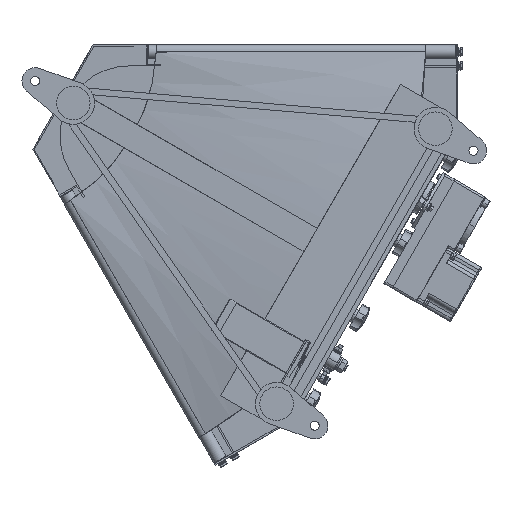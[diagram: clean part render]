
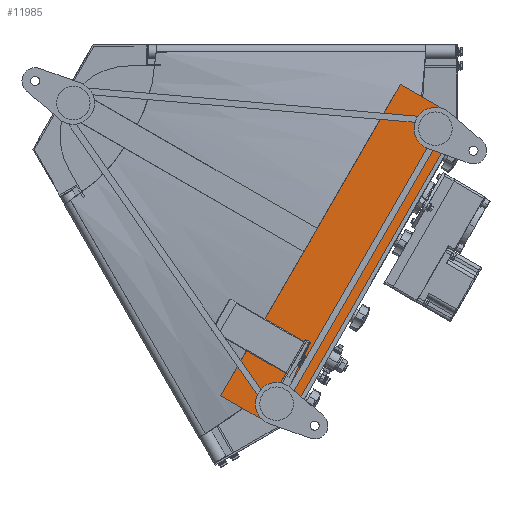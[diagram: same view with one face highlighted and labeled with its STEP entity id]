
A CAD part, front view. The second image highlights one B-rep face of the part: STEP entity #11985.
In plain terms, the highlighted planar face has unit normal (0, -1, 0).
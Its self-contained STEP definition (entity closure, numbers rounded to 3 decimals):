
#628 = CARTESIAN_POINT ( 'NONE',  ( 95.687, -167.5, -55.245 ) ) ;
#3489 = CARTESIAN_POINT ( 'NONE',  ( 612.849, -167.5, -56.493 ) ) ;
#3564 = VECTOR ( 'NONE', #3929, 1000. ) ;
#3929 = DIRECTION ( 'NONE',  ( 0.259, 0., -0.966 ) ) ;
#4014 = DIRECTION ( 'NONE',  ( 0.5, 0., 0.866 ) ) ;
#4125 = VERTEX_POINT ( 'NONE', #43088 ) ;
#4242 = EDGE_CURVE ( 'NONE', #24552, #43173, #15252, .T. ) ;
#5218 = VECTOR ( 'NONE', #4014, 1000. ) ;
#5667 = CARTESIAN_POINT ( 'NONE',  ( 355.349, -167.5, -502.496 ) ) ;
#6793 = EDGE_CURVE ( 'NONE', #17023, #4125, #33706, .T. ) ;
#7577 = DIRECTION ( 'NONE',  ( 0.866, 0., -0.5 ) ) ;
#9101 = PLANE ( 'NONE',  #28272 ) ;
#11061 = FACE_OUTER_BOUND ( 'NONE', #49304, .T. ) ;
#11443 = VECTOR ( 'NONE', #42055, 1000. ) ;
#11832 = CARTESIAN_POINT ( 'NONE',  ( 355.349, -167.5, -502.496 ) ) ;
#11895 = CARTESIAN_POINT ( 'NONE',  ( 684.452, -167.5, -132.474 ) ) ;
#11985 = ADVANCED_FACE ( 'NONE', ( #11061 ), #9101, .F. ) ;
#13736 = CARTESIAN_POINT ( 'NONE',  ( 415.971, -167.5, -537.496 ) ) ;
#14050 = EDGE_CURVE ( 'NONE', #43173, #21114, #25152, .T. ) ;
#14201 = EDGE_CURVE ( 'NONE', #24551, #17023, #42489, .T. ) ;
#15252 = LINE ( 'NONE', #39941, #30205 ) ;
#15818 = DIRECTION ( 'NONE',  ( -0.866, 0., 0.5 ) ) ;
#17023 = VERTEX_POINT ( 'NONE', #3489 ) ;
#17483 = ORIENTED_EDGE ( 'NONE', *, *, #14050, .F. ) ;
#20936 = DIRECTION ( 'NONE',  ( 0.208, 0., 0.978 ) ) ;
#21114 = VERTEX_POINT ( 'NONE', #50411 ) ;
#21594 = LINE ( 'NONE', #11895, #3564 ) ;
#23292 = CARTESIAN_POINT ( 'NONE',  ( 355.349, -167.5, -502.496 ) ) ;
#24169 = DIRECTION ( 'NONE',  ( -0.5, 0., -0.866 ) ) ;
#24551 = VERTEX_POINT ( 'NONE', #5667 ) ;
#24552 = VERTEX_POINT ( 'NONE', #49375 ) ;
#25152 = LINE ( 'NONE', #13736, #11443 ) ;
#28272 = AXIS2_PLACEMENT_3D ( 'NONE', #628, #40523, #20936 ) ;
#28660 = ORIENTED_EDGE ( 'NONE', *, *, #4242, .F. ) ;
#28692 = VECTOR ( 'NONE', #15818, 1000. ) ;
#30205 = VECTOR ( 'NONE', #24169, 1000. ) ;
#33706 = LINE ( 'NONE', #34714, #43003 ) ;
#34714 = CARTESIAN_POINT ( 'NONE',  ( 612.849, -167.5, -56.493 ) ) ;
#35659 = ORIENTED_EDGE ( 'NONE', *, *, #6793, .F. ) ;
#39941 = CARTESIAN_POINT ( 'NONE',  ( 456.952, -167.5, -526.515 ) ) ;
#40523 = DIRECTION ( 'NONE',  ( 0., 1., 0. ) ) ;
#41400 = CARTESIAN_POINT ( 'NONE',  ( 456.952, -167.5, -526.515 ) ) ;
#42055 = DIRECTION ( 'NONE',  ( -0.966, 0., -0.259 ) ) ;
#42184 = EDGE_CURVE ( 'NONE', #21114, #24551, #45446, .T. ) ;
#42489 = LINE ( 'NONE', #23292, #5218 ) ;
#43003 = VECTOR ( 'NONE', #7577, 1000. ) ;
#43088 = CARTESIAN_POINT ( 'NONE',  ( 673.471, -167.5, -91.493 ) ) ;
#43173 = VERTEX_POINT ( 'NONE', #41400 ) ;
#45075 = ORIENTED_EDGE ( 'NONE', *, *, #14201, .F. ) ;
#45446 = LINE ( 'NONE', #11832, #28692 ) ;
#45965 = ORIENTED_EDGE ( 'NONE', *, *, #47351, .F. ) ;
#47351 = EDGE_CURVE ( 'NONE', #4125, #24552, #21594, .T. ) ;
#48286 = ORIENTED_EDGE ( 'NONE', *, *, #42184, .F. ) ;
#49304 = EDGE_LOOP ( 'NONE', ( #45965, #35659, #45075, #48286, #17483, #28660 ) ) ;
#49375 = CARTESIAN_POINT ( 'NONE',  ( 684.452, -167.5, -132.474 ) ) ;
#50411 = CARTESIAN_POINT ( 'NONE',  ( 415.971, -167.5, -537.496 ) ) ;
